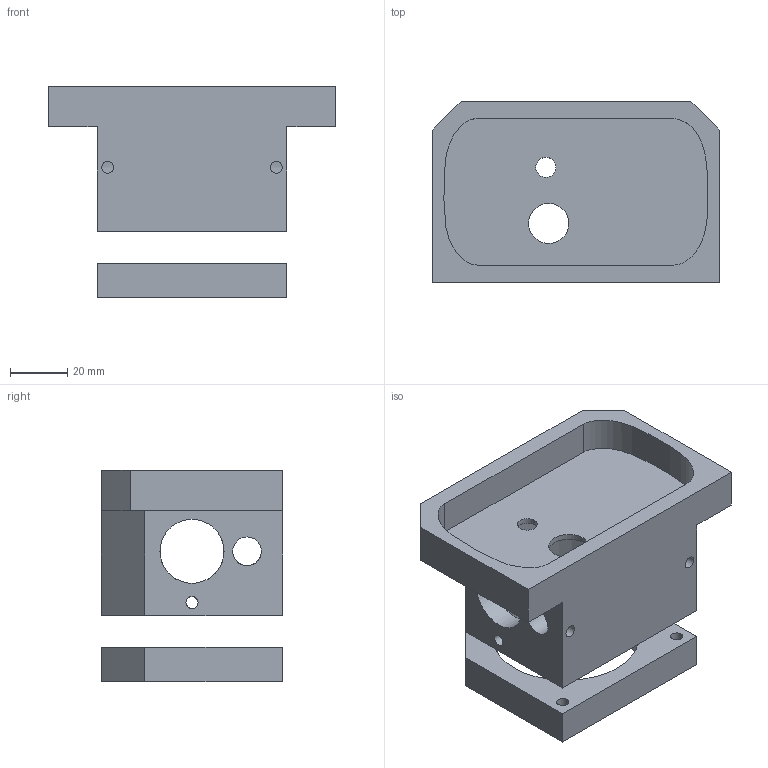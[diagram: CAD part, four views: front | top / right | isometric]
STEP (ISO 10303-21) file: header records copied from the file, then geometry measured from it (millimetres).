
FILE_DESCRIPTION(/* description */ (''),/* implementation_level */ '2;1');
FILE_NAME(/* name */ 'C:/Users/David Florian/Desktop/Cyber-Scooter-Step-Files/5-Handle-Bar-Display-T-Joiner.step',/* time_stamp */ '2020-12-14T22:11:32-06:00',/* author */ (''),/* organization */ (''),/* preprocessor_version */ 'ST-DEVELOPER v18.1',/* originating_system */ 'Autodesk Translation Framework v9.7.1.1290',/* authorisation */ '');
FILE_SCHEMA (('AUTOMOTIVE_DESIGN { 1 0 10303 214 3 1 1 }'));
Length unit declared in the file: millimetre
Products named in the file (1): SteeringColumn-Handle-Bar
Bounding box: 100 x 63 x 73.5 mm (x, y, z)
Volume: 112796.2 mm3; surface area: 44845.5 mm2
Topology: 2 solids, 2 shells, 54 faces, 146 edges, 100 vertices
Faces by surface type: plane 30, cylinder 22, bspline 2
Full cylindrical faces by diameter (mm): 4.2 x14, 7 x1, 10 x2, 14 x1, 22.3 x2, 50.8 x1, 51.3 x1
Entity records: 2777 total; most frequent: CARTESIAN_POINT 1338, ORIENTED_EDGE 292, DIRECTION 256, EDGE_CURVE 146, VERTEX_POINT 100, EDGE_LOOP 92, LINE 86, VECTOR 86
